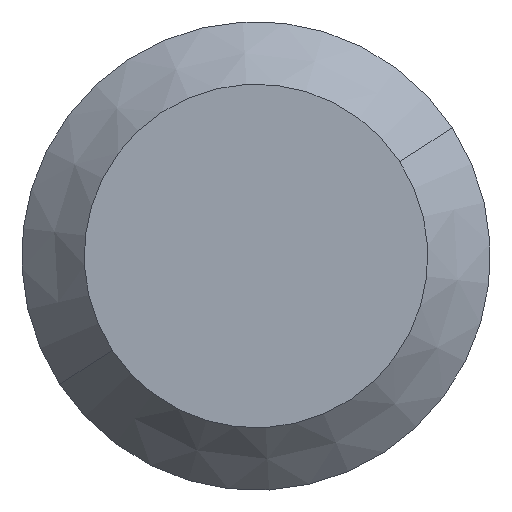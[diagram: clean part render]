
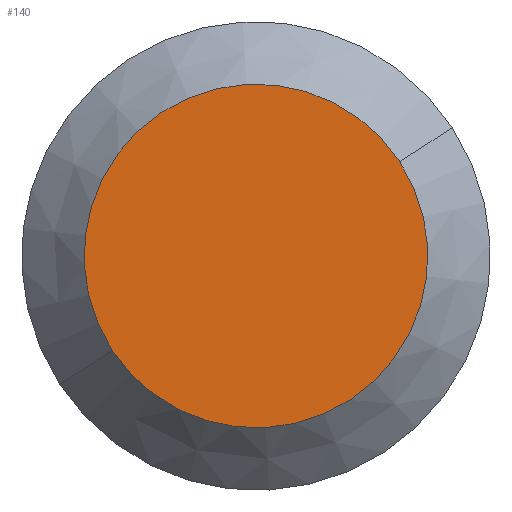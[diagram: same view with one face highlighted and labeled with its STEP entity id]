
A CAD part, front view. The second image highlights one B-rep face of the part: STEP entity #140.
In plain terms, the highlighted planar face has unit normal (0, -1, 0).
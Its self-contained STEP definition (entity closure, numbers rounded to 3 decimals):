
#2 = EDGE_CURVE ( 'NONE', #44, #53, #134, .T. ) ;
#23 = EDGE_CURVE ( 'NONE', #44, #53, #174, .T. ) ;
#37 = EDGE_LOOP ( 'NONE', ( #182, #171 ) ) ;
#44 = VERTEX_POINT ( 'NONE', #201 ) ;
#50 = DIRECTION ( 'NONE',  ( 0.837, 0., 0.548 ) ) ;
#53 = VERTEX_POINT ( 'NONE', #92 ) ;
#55 = DIRECTION ( 'NONE',  ( 0., 1., 0. ) ) ;
#58 = DIRECTION ( 'NONE',  ( 0.837, 0., 0.548 ) ) ;
#82 = AXIS2_PLACEMENT_3D ( 'NONE', #111, #188, #112 ) ;
#92 = CARTESIAN_POINT ( 'NONE',  ( 223.159, 0., -20.005 ) ) ;
#103 = AXIS2_PLACEMENT_3D ( 'NONE', #220, #55, #50 ) ;
#110 = CARTESIAN_POINT ( 'NONE',  ( 225., 0., -18.8 ) ) ;
#111 = CARTESIAN_POINT ( 'NONE',  ( 225., 0., -18.8 ) ) ;
#112 = DIRECTION ( 'NONE',  ( 0.837, 0., 0.548 ) ) ;
#134 = CIRCLE ( 'NONE', #82, 2.2 ) ;
#140 = ADVANCED_FACE ( 'NONE', ( #164 ), #145, .F. ) ;
#145 = PLANE ( 'NONE',  #103 ) ;
#149 = DIRECTION ( 'NONE',  ( 0., -1., 0. ) ) ;
#164 = FACE_OUTER_BOUND ( 'NONE', #37, .T. ) ;
#171 = ORIENTED_EDGE ( 'NONE', *, *, #23, .T. ) ;
#174 = CIRCLE ( 'NONE', #219, 2.2 ) ;
#182 = ORIENTED_EDGE ( 'NONE', *, *, #2, .F. ) ;
#188 = DIRECTION ( 'NONE',  ( 0., 1., 0. ) ) ;
#201 = CARTESIAN_POINT ( 'NONE',  ( 226.841, 0., -17.595 ) ) ;
#219 = AXIS2_PLACEMENT_3D ( 'NONE', #110, #149, #58 ) ;
#220 = CARTESIAN_POINT ( 'NONE',  ( 225., 0., -18.8 ) ) ;
